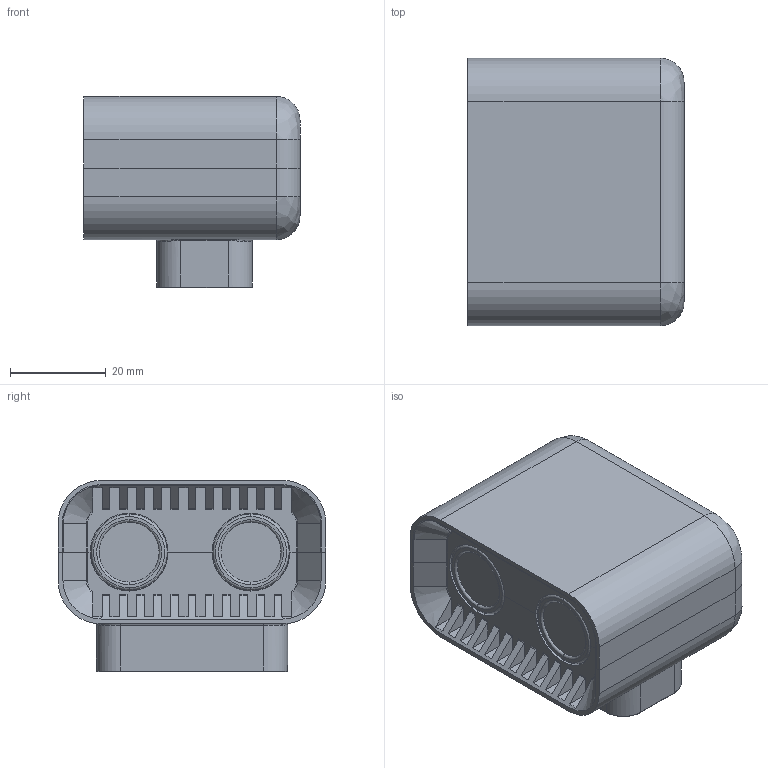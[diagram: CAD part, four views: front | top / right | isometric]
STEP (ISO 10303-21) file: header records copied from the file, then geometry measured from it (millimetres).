
FILE_DESCRIPTION((''),'2;1');
FILE_NAME('USBETA_ASM','2019-05-22T',('User'),(''),'PRO/ENGINEER BY PARAMETRIC TECHNOLOGY CORPORATION, 2009360','PRO/ENGINEER BY PARAMETRIC TECHNOLOGY CORPORATION, 2009360','');
FILE_SCHEMA(('AUTOMOTIVE_DESIGN_CC2 { 1 2 10303 214 -1 1 5 2 }'));
Length unit declared in the file: millimetre
Products named in the file (27): BOARD_STEP_ANY; HC-SR04_PCB__1__STEP_ANY_ASM; USPCBA_ANY_ASM; USER_LIBRARY-HC-SR04_603_CAP_ON; HC-SR04_FULLPCB_STEP_3_; HC-SR04_FULLPCB_STEP_2_; HC-SR04_FULLPCB_STEP_1_; HC-SR04_FULLPCB_STEP_4_; USER_LIBRARY-HC-SR04_MLC0603_ST_ASM; USER_LIBRARY-HC-SR04_SSOT3_STEP; USER_LIBRARY-HC-SR04_PCB_STEP_A; USER_LIBRARY-HC-SR04_14_PIN_SMT; USER_LIBRARY-HC-SR04_3_PIN_HEAD; USER_LIBRARY-HC-SR04_HC-SR04_CR; USER_LIBRARY-HC-SR04_TRANSDUCER; USER_LIBRARY-HC-SR04_HC-SR04_PI_ASM; HC-SR04-1_STEP_ANY_ASM; HC-SR04_STEP_ANY_ASM; HC-SR04_FULLPCB_STEP_ANY_ASM; USCOMA_ANY_ASM; BOSS-EXTRUDE17; CHAMFER1; USCA_2_ANY_ASM; RJ45X1A_ANY; USBETA_ANY_ASM; _USBETA; USBETA_ASM
Assembly tree (64 placements, depth 9):
  USBETA_ASM
    USBETA_ANY_ASM
      USPCBA_ANY_ASM
        HC-SR04_PCB__1__STEP_ANY_ASM
          BOARD_STEP_ANY
      USCOMA_ANY_ASM
        HC-SR04_FULLPCB_STEP_ANY_ASM
          HC-SR04_STEP_ANY_ASM
            HC-SR04-1_STEP_ANY_ASM
              USER_LIBRARY-HC-SR04_HC-SR04_PI_ASM
                USER_LIBRARY-HC-SR04_603_CAP_ON  x16
                USER_LIBRARY-HC-SR04_MLC0603_ST_ASM  x20
                  HC-SR04_FULLPCB_STEP_3_
                  HC-SR04_FULLPCB_STEP_2_
                  HC-SR04_FULLPCB_STEP_1_
                  HC-SR04_FULLPCB_STEP_4_
                USER_LIBRARY-HC-SR04_SSOT3_STEP  x2
                USER_LIBRARY-HC-SR04_PCB_STEP_A
                USER_LIBRARY-HC-SR04_14_PIN_SMT  x3
                USER_LIBRARY-HC-SR04_3_PIN_HEAD
                USER_LIBRARY-HC-SR04_HC-SR04_CR
                USER_LIBRARY-HC-SR04_TRANSDUCER  x2
      USCA_2_ANY_ASM
        BOSS-EXTRUDE17
        CHAMFER1
      RJ45X1A_ANY
    _USBETA
Bounding box: 45.22 x 56 x 40 mm (x, y, z)
Volume: 27266.6 mm3; surface area: 35831.1 mm2
Topology: 110 solids, 110 shells, 4458 faces, 12080 edges, 7981 vertices
Faces by surface type: plane 2927, cylinder 1256, bspline 136, torus 115, cone 24
Entity records: 99235 total; most frequent: CARTESIAN_POINT 17486, ORIENTED_EDGE 12242, DIRECTION 11533, PRESENTATION_STYLE_ASSIGNMENT 6535, EDGE_CURVE 6121, STYLED_ITEM 5558, CURVE_STYLE 5472, VERTEX_POINT 4197
